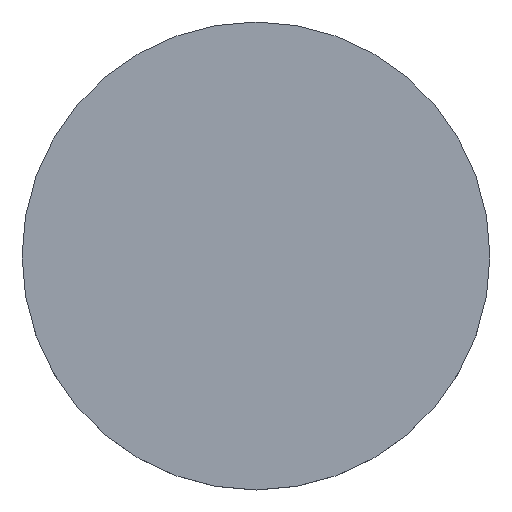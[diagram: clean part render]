
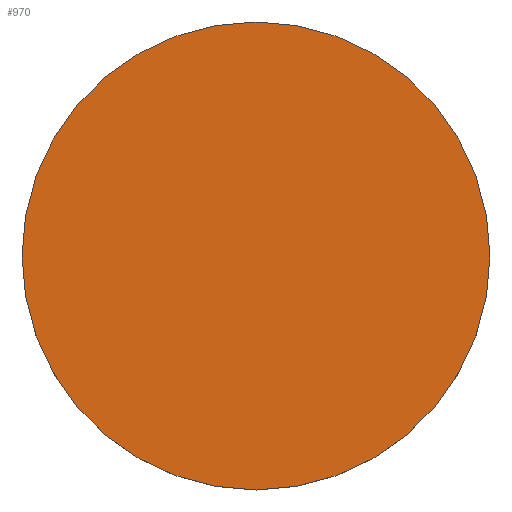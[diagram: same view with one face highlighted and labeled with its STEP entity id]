
A CAD part, top view. The second image highlights one B-rep face of the part: STEP entity #970.
In plain terms, the highlighted planar face has unit normal (0, 0, 1).
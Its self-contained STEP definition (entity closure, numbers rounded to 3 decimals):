
#36=PLANE('',#1100);
#204=FACE_OUTER_BOUND('',#330,.T.);
#330=EDGE_LOOP('',(#748));
#420=CIRCLE('',#1099,150.);
#510=VERTEX_POINT('',#1625);
#600=EDGE_CURVE('',#510,#510,#420,.T.);
#748=ORIENTED_EDGE('',*,*,#600,.T.);
#970=ADVANCED_FACE('',(#204),#36,.T.);
#1099=AXIS2_PLACEMENT_3D('',#1626,#1361,#1362);
#1100=AXIS2_PLACEMENT_3D('',#1627,#1363,#1364);
#1361=DIRECTION('center_axis',(0.,0.,
1.));
#1362=DIRECTION('ref_axis',(-1.,0.,0.));
#1363=DIRECTION('center_axis',(0.,0.,
1.));
#1364=DIRECTION('ref_axis',(1.,0.,0.));
#1625=CARTESIAN_POINT('',(150.,0.,76.));
#1626=CARTESIAN_POINT('Origin',(0.,0.,
76.));
#1627=CARTESIAN_POINT('Origin',(0.,0.,
76.));
